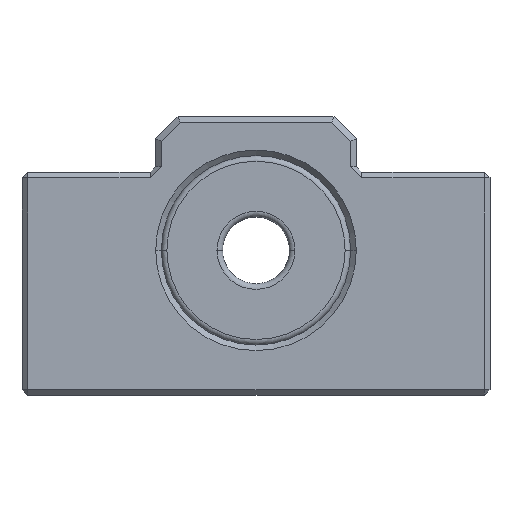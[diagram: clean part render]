
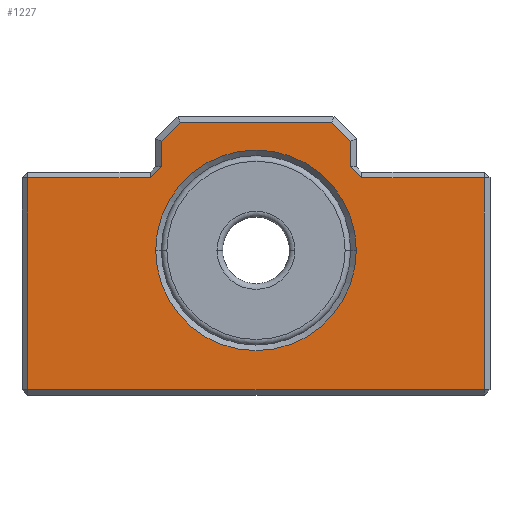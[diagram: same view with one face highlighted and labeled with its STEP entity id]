
A CAD part, top view. The second image highlights one B-rep face of the part: STEP entity #1227.
In plain terms, the highlighted planar face has unit normal (0, 0, 1).
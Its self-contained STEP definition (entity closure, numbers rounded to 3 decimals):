
#34 = VECTOR ( 'NONE', #246, 1000. ) ;
#35 = VECTOR ( 'NONE', #249, 1000. ) ;
#36 = VECTOR ( 'NONE', #252, 1000. ) ;
#38 = VECTOR ( 'NONE', #255, 1000. ) ;
#62 = EDGE_CURVE ( 'NONE', #1847, #1848, #181, .T. ) ;
#63 = EDGE_CURVE ( 'NONE', #1846, #1847, #184, .T. ) ;
#64 = EDGE_CURVE ( 'NONE', #1845, #1846, #187, .T. ) ;
#65 = EDGE_CURVE ( 'NONE', #1844, #1845, #190, .T. ) ;
#66 = EDGE_CURVE ( 'NONE', #1844, #1843, #193, .T. ) ;
#67 = EDGE_CURVE ( 'NONE', #1841, #1842, #196, .T. ) ;
#68 = EDGE_CURVE ( 'NONE', #1811, #1812, #1392, .T. ) ;
#69 = EDGE_CURVE ( 'NONE', #1842, #1843, #202, .T. ) ;
#83 = EDGE_CURVE ( 'NONE', #1832, #1841, #244, .T. ) ;
#84 = EDGE_CURVE ( 'NONE', #1831, #1832, #247, .T. ) ;
#85 = EDGE_CURVE ( 'NONE', #1830, #1831, #250, .T. ) ;
#86 = EDGE_CURVE ( 'NONE', #1830, #1849, #253, .T. ) ;
#87 = EDGE_CURVE ( 'NONE', #1848, #1849, #256, .T. ) ;
#177 = CARTESIAN_POINT ( 'NONE',  ( 0., 0., 6. ) ) ;
#181 = LINE ( 'NONE', #182, #1436 ) ;
#182 = CARTESIAN_POINT ( 'NONE',  ( -8.646, 9.646, 6. ) ) ;
#183 = DIRECTION ( 'NONE',  ( -0.707, -0.707, 0. ) ) ;
#184 = LINE ( 'NONE', #185, #1437 ) ;
#185 = CARTESIAN_POINT ( 'NONE',  ( 0., 11.5, 6. ) ) ;
#186 = DIRECTION ( 'NONE',  ( -1., 0., 0. ) ) ;
#187 = LINE ( 'NONE', #188, #1438 ) ;
#188 = CARTESIAN_POINT ( 'NONE',  ( 6.646, 11.646, 6. ) ) ;
#189 = DIRECTION ( 'NONE',  ( -0.707, 0.707, 0. ) ) ;
#190 = LINE ( 'NONE', #191, #1439 ) ;
#191 = CARTESIAN_POINT ( 'NONE',  ( 8.5, 0., 6. ) ) ;
#192 = DIRECTION ( 'NONE',  ( 0., 1., 0. ) ) ;
#193 = LINE ( 'NONE', #194, #1441 ) ;
#194 = CARTESIAN_POINT ( 'NONE',  ( 9.5, 6.5, 6. ) ) ;
#195 = DIRECTION ( 'NONE',  ( 0.707, -0.707, 0. ) ) ;
#196 = LINE ( 'NONE', #197, #1442 ) ;
#197 = CARTESIAN_POINT ( 'NONE',  ( 20.5, 0., 6. ) ) ;
#198 = DIRECTION ( 'NONE',  ( 0., 1., 0. ) ) ;
#199 = DIRECTION ( 'NONE',  ( 0., 0., -1. ) ) ;
#200 = DIRECTION ( 'NONE',  ( -1., 0., 0. ) ) ;
#202 = LINE ( 'NONE', #203, #1445 ) ;
#203 = CARTESIAN_POINT ( 'NONE',  ( 0., 6.5, 6. ) ) ;
#204 = DIRECTION ( 'NONE',  ( -1., 0., 0. ) ) ;
#244 = LINE ( 'NONE', #245, #34 ) ;
#245 = CARTESIAN_POINT ( 'NONE',  ( 0., -12.5, 6. ) ) ;
#246 = DIRECTION ( 'NONE',  ( 1., 0., 0. ) ) ;
#247 = LINE ( 'NONE', #248, #35 ) ;
#248 = CARTESIAN_POINT ( 'NONE',  ( -20.5, 0., 6. ) ) ;
#249 = DIRECTION ( 'NONE',  ( 0., -1., 0. ) ) ;
#250 = LINE ( 'NONE', #251, #36 ) ;
#251 = CARTESIAN_POINT ( 'NONE',  ( 0., 6.5, 6. ) ) ;
#252 = DIRECTION ( 'NONE',  ( -1., 0., 0. ) ) ;
#253 = LINE ( 'NONE', #254, #38 ) ;
#254 = CARTESIAN_POINT ( 'NONE',  ( -8.5, 7.5, 6. ) ) ;
#255 = DIRECTION ( 'NONE',  ( 0.707, 0.707, 0. ) ) ;
#256 = LINE ( 'NONE', #257, #2285 ) ;
#257 = CARTESIAN_POINT ( 'NONE',  ( -8.5, 0., 6. ) ) ;
#258 = DIRECTION ( 'NONE',  ( 0., -1., 0. ) ) ;
#529 = PLANE ( 'NONE',  #2266 ) ;
#530 = CARTESIAN_POINT ( 'NONE',  ( 0., 0., 6. ) ) ;
#531 = DIRECTION ( 'NONE',  ( 0., 0., -1. ) ) ;
#532 = DIRECTION ( 'NONE',  ( -1., 0., 0. ) ) ;
#609 = CARTESIAN_POINT ( 'NONE',  ( 0., 0., 6. ) ) ;
#616 = DIRECTION ( 'NONE',  ( 0., 0., -1. ) ) ;
#617 = DIRECTION ( 'NONE',  ( -1., 0., 0. ) ) ;
#1062 = CARTESIAN_POINT ( 'NONE',  ( -9., 0., 6. ) ) ;
#1063 = CARTESIAN_POINT ( 'NONE',  ( 9., 0., 6. ) ) ;
#1081 = CARTESIAN_POINT ( 'NONE',  ( -9.5, 6.5, 6. ) ) ;
#1082 = CARTESIAN_POINT ( 'NONE',  ( -20.5, 6.5, 6. ) ) ;
#1083 = CARTESIAN_POINT ( 'NONE',  ( -20.5, -12.5, 6. ) ) ;
#1092 = CARTESIAN_POINT ( 'NONE',  ( 20.5, -12.5, 6. ) ) ;
#1093 = CARTESIAN_POINT ( 'NONE',  ( 20.5, 6.5, 6. ) ) ;
#1094 = CARTESIAN_POINT ( 'NONE',  ( 9.5, 6.5, 6. ) ) ;
#1095 = CARTESIAN_POINT ( 'NONE',  ( 8.5, 7.5, 6. ) ) ;
#1096 = CARTESIAN_POINT ( 'NONE',  ( 8.5, 9.793, 6. ) ) ;
#1097 = CARTESIAN_POINT ( 'NONE',  ( 6.793, 11.5, 6. ) ) ;
#1098 = CARTESIAN_POINT ( 'NONE',  ( -6.793, 11.5, 6. ) ) ;
#1099 = CARTESIAN_POINT ( 'NONE',  ( -8.5, 9.793, 6. ) ) ;
#1100 = CARTESIAN_POINT ( 'NONE',  ( -8.5, 7.5, 6. ) ) ;
#1227 = ADVANCED_FACE ( 'NONE', ( #2259, #2264 ), #529, .F. ) ;
#1254 = EDGE_CURVE ( 'NONE', #1812, #1811, #2339, .T. ) ;
#1392 = CIRCLE ( 'NONE', #1440, 9. ) ;
#1436 = VECTOR ( 'NONE', #183, 1000. ) ;
#1437 = VECTOR ( 'NONE', #186, 1000. ) ;
#1438 = VECTOR ( 'NONE', #189, 1000. ) ;
#1439 = VECTOR ( 'NONE', #192, 1000. ) ;
#1440 = AXIS2_PLACEMENT_3D ( 'NONE', #177, #199, #200 ) ;
#1441 = VECTOR ( 'NONE', #195, 1000. ) ;
#1442 = VECTOR ( 'NONE', #198, 1000. ) ;
#1445 = VECTOR ( 'NONE', #204, 1000. ) ;
#1467 = EDGE_LOOP ( 'NONE', ( #1720, #1719 ) ) ;
#1488 = EDGE_LOOP ( 'NONE', ( #1718, #1716, #1717, #1715, #1714, #1713, #1712, #1711, #1710, #1709, #1708, #1707 ) ) ;
#1707 = ORIENTED_EDGE ( 'NONE', *, *, #83, .T. ) ;
#1708 = ORIENTED_EDGE ( 'NONE', *, *, #84, .T. ) ;
#1709 = ORIENTED_EDGE ( 'NONE', *, *, #85, .T. ) ;
#1710 = ORIENTED_EDGE ( 'NONE', *, *, #86, .F. ) ;
#1711 = ORIENTED_EDGE ( 'NONE', *, *, #87, .T. ) ;
#1712 = ORIENTED_EDGE ( 'NONE', *, *, #62, .T. ) ;
#1713 = ORIENTED_EDGE ( 'NONE', *, *, #63, .T. ) ;
#1714 = ORIENTED_EDGE ( 'NONE', *, *, #64, .T. ) ;
#1715 = ORIENTED_EDGE ( 'NONE', *, *, #65, .T. ) ;
#1716 = ORIENTED_EDGE ( 'NONE', *, *, #69, .T. ) ;
#1717 = ORIENTED_EDGE ( 'NONE', *, *, #66, .F. ) ;
#1718 = ORIENTED_EDGE ( 'NONE', *, *, #67, .T. ) ;
#1719 = ORIENTED_EDGE ( 'NONE', *, *, #68, .T. ) ;
#1720 = ORIENTED_EDGE ( 'NONE', *, *, #1254, .T. ) ;
#1811 = VERTEX_POINT ( 'NONE', #1062 ) ;
#1812 = VERTEX_POINT ( 'NONE', #1063 ) ;
#1830 = VERTEX_POINT ( 'NONE', #1081 ) ;
#1831 = VERTEX_POINT ( 'NONE', #1082 ) ;
#1832 = VERTEX_POINT ( 'NONE', #1083 ) ;
#1841 = VERTEX_POINT ( 'NONE', #1092 ) ;
#1842 = VERTEX_POINT ( 'NONE', #1093 ) ;
#1843 = VERTEX_POINT ( 'NONE', #1094 ) ;
#1844 = VERTEX_POINT ( 'NONE', #1095 ) ;
#1845 = VERTEX_POINT ( 'NONE', #1096 ) ;
#1846 = VERTEX_POINT ( 'NONE', #1097 ) ;
#1847 = VERTEX_POINT ( 'NONE', #1098 ) ;
#1848 = VERTEX_POINT ( 'NONE', #1099 ) ;
#1849 = VERTEX_POINT ( 'NONE', #1100 ) ;
#2036 = AXIS2_PLACEMENT_3D ( 'NONE', #609, #616, #617 ) ;
#2259 = FACE_BOUND ( 'NONE', #1467, .T. ) ;
#2264 = FACE_OUTER_BOUND ( 'NONE', #1488, .T. ) ;
#2266 = AXIS2_PLACEMENT_3D ( 'NONE', #530, #531, #532 ) ;
#2285 = VECTOR ( 'NONE', #258, 1000. ) ;
#2339 = CIRCLE ( 'NONE', #2036, 9. ) ;
